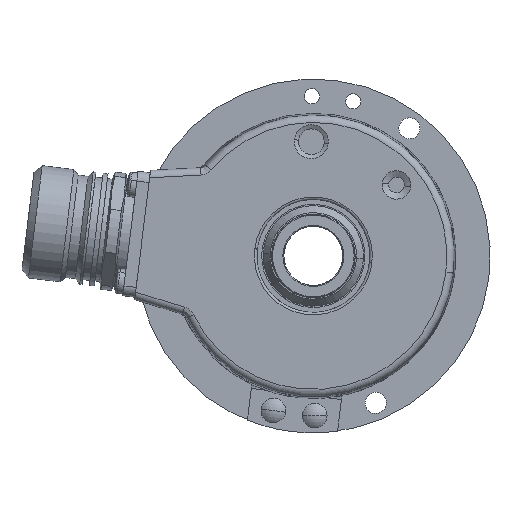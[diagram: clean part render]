
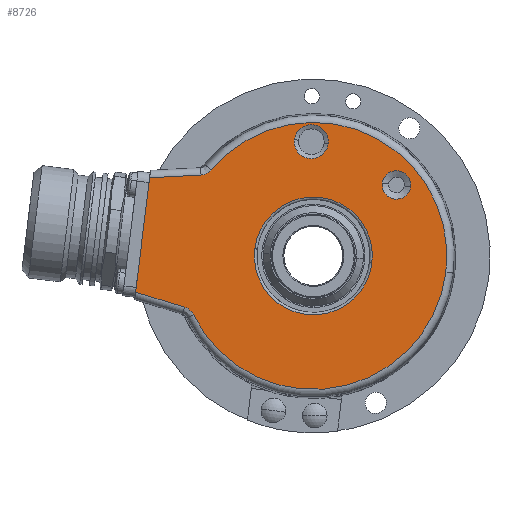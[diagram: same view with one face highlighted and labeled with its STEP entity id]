
A CAD part, left-side view. The second image highlights one B-rep face of the part: STEP entity #8726.
In plain terms, the highlighted planar face has unit normal (-1, 0, 0).
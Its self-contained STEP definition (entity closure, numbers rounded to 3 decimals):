
#345 = CARTESIAN_POINT ( 'NONE',  ( -19., -3.034, 22.824 ) ) ;
#427 = DIRECTION ( 'NONE',  ( 0., -0.993, -0.122 ) ) ;
#428 = DIRECTION ( 'NONE',  ( 1., 0., 0. ) ) ;
#429 = CARTESIAN_POINT ( 'NONE',  ( -19., -16.919, 14.45 ) ) ;
#430 = AXIS2_PLACEMENT_3D ( 'NONE', #429, #428, #427 ) ;
#431 = CIRCLE ( 'NONE', #430, 2.899 ) ;
#564 = CARTESIAN_POINT ( 'NONE',  ( -19., 22.914, 16.45 ) ) ;
#596 = CARTESIAN_POINT ( 'NONE',  ( -19., 20.777, 17.512 ) ) ;
#597 = CARTESIAN_POINT ( 'NONE',  ( -19., -26.97, -3.312 ) ) ;
#598 = DIRECTION ( 'NONE',  ( 0., -0.993, -0.122 ) ) ;
#599 = DIRECTION ( 'NONE',  ( -1., 0., 0. ) ) ;
#600 = CARTESIAN_POINT ( 'NONE',  ( -19., 0., 0. ) ) ;
#601 = AXIS2_PLACEMENT_3D ( 'NONE', #600, #599, #598 ) ;
#602 = CIRCLE ( 'NONE', #601, 27.173 ) ;
#641 = DIRECTION ( 'NONE',  ( 0., -0.993, -0.122 ) ) ;
#642 = DIRECTION ( 'NONE',  ( 1., 0., 0. ) ) ;
#643 = AXIS2_PLACEMENT_3D ( 'NONE', #649, #642, #641 ) ;
#644 = CIRCLE ( 'NONE', #643, 3.466 ) ;
#649 = CARTESIAN_POINT ( 'NONE',  ( -19., 0.406, 23.246 ) ) ;
#745 = CARTESIAN_POINT ( 'NONE',  ( -19., 25.3, -10.87 ) ) ;
#828 = CARTESIAN_POINT ( 'NONE',  ( -19., 11.911, 1.462 ) ) ;
#859 = CARTESIAN_POINT ( 'NONE',  ( -19., -11.911, -1.462 ) ) ;
#860 = DIRECTION ( 'NONE',  ( 0., -0.993, -0.122 ) ) ;
#861 = DIRECTION ( 'NONE',  ( 1., 0., 0. ) ) ;
#862 = AXIS2_PLACEMENT_3D ( 'NONE', #868, #861, #860 ) ;
#863 = CIRCLE ( 'NONE', #862, 12. ) ;
#868 = CARTESIAN_POINT ( 'NONE',  ( -19., 0., 0. ) ) ;
#962 = CARTESIAN_POINT ( 'NONE',  ( -19., 25.471, -10.753 ) ) ;
#968 = CARTESIAN_POINT ( 'NONE',  ( -19., 25.828, -10.557 ) ) ;
#1133 = CARTESIAN_POINT ( 'NONE',  ( -19., 33.31, 15.905 ) ) ;
#1144 = DIRECTION ( 'NONE',  ( 0., 0.999, -0.052 ) ) ;
#1145 = VECTOR ( 'NONE', #1144, 1000. ) ;
#1146 = CARTESIAN_POINT ( 'NONE',  ( -19., 33.046, 15.919 ) ) ;
#1147 = LINE ( 'NONE', #1146, #1145 ) ;
#1165 = CARTESIAN_POINT ( 'NONE',  ( -19., 24.396, -11.966 ) ) ;
#1190 = CARTESIAN_POINT ( 'NONE',  ( -19., 24.989, -11.135 ) ) ;
#1191 = CARTESIAN_POINT ( 'NONE',  ( -19., 24.848, -11.282 ) ) ;
#1192 = CARTESIAN_POINT ( 'NONE',  ( -19., 24.597, -11.605 ) ) ;
#1193 = CARTESIAN_POINT ( 'NONE',  ( -19., 24.487, -11.781 ) ) ;
#1194 = CARTESIAN_POINT ( 'NONE',  ( -19., 24.396, -11.966 ) ) ;
#1195 = B_SPLINE_CURVE_WITH_KNOTS ( 'NONE', 3,
 ( #1194, #1193, #1192, #1191, #1190, #745, #962, #968, #7178, #7171 ),
 .UNSPECIFIED., .F., .F.,
 ( 4, 2, 2, 2, 4 ),
 ( 0., 0.001, 0.001, 0.002, 0.002 ),
 .UNSPECIFIED. ) ;
#1257 = DIRECTION ( 'NONE',  ( 0., -0.993, -0.122 ) ) ;
#1258 = DIRECTION ( 'NONE',  ( -1., 0., 0. ) ) ;
#1259 = CARTESIAN_POINT ( 'NONE',  ( -19., 0., 0. ) ) ;
#1260 = AXIS2_PLACEMENT_3D ( 'NONE', #1259, #1258, #1257 ) ;
#1261 = CIRCLE ( 'NONE', #1260, 27.173 ) ;
#6600 = CARTESIAN_POINT ( 'NONE',  ( -19., -14.042, 14.804 ) ) ;
#6601 = DIRECTION ( 'NONE',  ( 0., -0.993, -0.122 ) ) ;
#6602 = DIRECTION ( 'NONE',  ( 1., 0., 0. ) ) ;
#6603 = CARTESIAN_POINT ( 'NONE',  ( -19., -16.919, 14.45 ) ) ;
#6604 = AXIS2_PLACEMENT_3D ( 'NONE', #6603, #6602, #6601 ) ;
#6605 = CIRCLE ( 'NONE', #6604, 2.899 ) ;
#6606 = CARTESIAN_POINT ( 'NONE',  ( -19., -19.796, 14.097 ) ) ;
#6902 = LINE ( 'NONE', #6961, #6960 ) ;
#6959 = DIRECTION ( 'NONE',  ( 0., -0.122, 0.993 ) ) ;
#6960 = VECTOR ( 'NONE', #6959, 1000. ) ;
#6961 = CARTESIAN_POINT ( 'NONE',  ( -19., 36.354, -8.886 ) ) ;
#7095 = FACE_OUTER_BOUND ( 'NONE', #8852, .T. ) ;
#7096 = FACE_BOUND ( 'NONE', #8861, .T. ) ;
#7097 = FACE_BOUND ( 'NONE', #8733, .T. ) ;
#7103 = FACE_BOUND ( 'NONE', #8789, .T. ) ;
#7138 = DIRECTION ( 'NONE',  ( 0., -0.993, -0.122 ) ) ;
#7139 = DIRECTION ( 'NONE',  ( 1., 0., 0. ) ) ;
#7140 = CARTESIAN_POINT ( 'NONE',  ( -19., 0., 0. ) ) ;
#7141 = AXIS2_PLACEMENT_3D ( 'NONE', #7140, #7139, #7138 ) ;
#7142 = PLANE ( 'NONE',  #7141 ) ;
#7171 = CARTESIAN_POINT ( 'NONE',  ( -19., 26.213, -10.418 ) ) ;
#7172 = CARTESIAN_POINT ( 'NONE',  ( -19., 3.846, 23.669 ) ) ;
#7173 = DIRECTION ( 'NONE',  ( 0., -0.993, -0.122 ) ) ;
#7174 = DIRECTION ( 'NONE',  ( 1., 0., 0. ) ) ;
#7175 = CARTESIAN_POINT ( 'NONE',  ( -19., 0.406, 23.246 ) ) ;
#7176 = AXIS2_PLACEMENT_3D ( 'NONE', #7175, #7174, #7173 ) ;
#7177 = CIRCLE ( 'NONE', #7176, 3.466 ) ;
#7178 = CARTESIAN_POINT ( 'NONE',  ( -19., 26.016, -10.478 ) ) ;
#8570 = VERTEX_POINT ( 'NONE', #6606 ) ;
#8573 = EDGE_CURVE ( 'NONE', #8575, #8570, #6605, .T. ) ;
#8575 = VERTEX_POINT ( 'NONE', #6600 ) ;
#8670 = ORIENTED_EDGE ( 'NONE', *, *, #8672, .F. ) ;
#8672 = EDGE_CURVE ( 'NONE', #9536, #9024, #6902, .T. ) ;
#8675 = ORIENTED_EDGE ( 'NONE', *, *, #9546, .T. ) ;
#8676 = ORIENTED_EDGE ( 'NONE', *, *, #9044, .F. ) ;
#8678 = ORIENTED_EDGE ( 'NONE', *, *, #9055, .T. ) ;
#8680 = ORIENTED_EDGE ( 'NONE', *, *, #8840, .T. ) ;
#8726 = ADVANCED_FACE ( 'NONE', ( #7103, #7097, #7096, #7095 ), #7142, .F. ) ;
#8728 = ORIENTED_EDGE ( 'NONE', *, *, #8573, .T. ) ;
#8730 = ORIENTED_EDGE ( 'NONE', *, *, #8786, .T. ) ;
#8733 = EDGE_LOOP ( 'NONE', ( #8856, #8858 ) ) ;
#8750 = EDGE_CURVE ( 'NONE', #8751, #8773, #7177, .T. ) ;
#8751 = VERTEX_POINT ( 'NONE', #7172 ) ;
#8773 = VERTEX_POINT ( 'NONE', #345 ) ;
#8786 = EDGE_CURVE ( 'NONE', #8570, #8575, #431, .T. ) ;
#8789 = EDGE_LOOP ( 'NONE', ( #8728, #8730 ) ) ;
#8830 = VERTEX_POINT ( 'NONE', #564 ) ;
#8840 = EDGE_CURVE ( 'NONE', #8842, #8844, #602, .T. ) ;
#8842 = VERTEX_POINT ( 'NONE', #597 ) ;
#8844 = VERTEX_POINT ( 'NONE', #596 ) ;
#8848 = ORIENTED_EDGE ( 'NONE', *, *, #8921, .T. ) ;
#8850 = ORIENTED_EDGE ( 'NONE', *, *, #9812, .T. ) ;
#8852 = EDGE_LOOP ( 'NONE', ( #8853, #8855, #8670, #8675, #8676, #8678, #8680 ) ) ;
#8853 = ORIENTED_EDGE ( 'NONE', *, *, #9629, .F. ) ;
#8855 = ORIENTED_EDGE ( 'NONE', *, *, #9016, .T. ) ;
#8856 = ORIENTED_EDGE ( 'NONE', *, *, #8750, .T. ) ;
#8858 = ORIENTED_EDGE ( 'NONE', *, *, #8870, .T. ) ;
#8861 = EDGE_LOOP ( 'NONE', ( #8848, #8850 ) ) ;
#8870 = EDGE_CURVE ( 'NONE', #8773, #8751, #644, .T. ) ;
#8918 = VERTEX_POINT ( 'NONE', #828 ) ;
#8921 = EDGE_CURVE ( 'NONE', #8922, #8918, #863, .T. ) ;
#8922 = VERTEX_POINT ( 'NONE', #859 ) ;
#9016 = EDGE_CURVE ( 'NONE', #8830, #9024, #1147, .T. ) ;
#9024 = VERTEX_POINT ( 'NONE', #1133 ) ;
#9040 = VERTEX_POINT ( 'NONE', #1165 ) ;
#9044 = EDGE_CURVE ( 'NONE', #9040, #9543, #1195, .T. ) ;
#9055 = EDGE_CURVE ( 'NONE', #9040, #8842, #1261, .T. ) ;
#9536 = VERTEX_POINT ( 'NONE', #15274 ) ;
#9543 = VERTEX_POINT ( 'NONE', #15338 ) ;
#9546 = EDGE_CURVE ( 'NONE', #9536, #9543, #15333, .T. ) ;
#9629 = EDGE_CURVE ( 'NONE', #8830, #8844, #15600, .T. ) ;
#9812 = EDGE_CURVE ( 'NONE', #8918, #8922, #16175, .T. ) ;
#15274 = CARTESIAN_POINT ( 'NONE',  ( -19., 36.168, -7.374 ) ) ;
#15330 = DIRECTION ( 'NONE',  ( 0., -0.956, -0.292 ) ) ;
#15331 = VECTOR ( 'NONE', #15330, 1000. ) ;
#15332 = CARTESIAN_POINT ( 'NONE',  ( -19., 25.556, -10.618 ) ) ;
#15333 = LINE ( 'NONE', #15332, #15331 ) ;
#15338 = CARTESIAN_POINT ( 'NONE',  ( -19., 26.213, -10.418 ) ) ;
#15583 = CARTESIAN_POINT ( 'NONE',  ( -19., 20.777, 17.512 ) ) ;
#15584 = CARTESIAN_POINT ( 'NONE',  ( -19., 20.91, 17.355 ) ) ;
#15585 = CARTESIAN_POINT ( 'NONE',  ( -19., 21.056, 17.213 ) ) ;
#15586 = CARTESIAN_POINT ( 'NONE',  ( -19., 21.376, 16.962 ) ) ;
#15587 = CARTESIAN_POINT ( 'NONE',  ( -19., 21.552, 16.851 ) ) ;
#15588 = CARTESIAN_POINT ( 'NONE',  ( -19., 21.917, 16.669 ) ) ;
#15589 = CARTESIAN_POINT ( 'NONE',  ( -19., 22.108, 16.597 ) ) ;
#15590 = CARTESIAN_POINT ( 'NONE',  ( -19., 22.503, 16.493 ) ) ;
#15591 = CARTESIAN_POINT ( 'NONE',  ( -19., 22.708, 16.461 ) ) ;
#15592 = CARTESIAN_POINT ( 'NONE',  ( -19., 22.914, 16.45 ) ) ;
#15600 = B_SPLINE_CURVE_WITH_KNOTS ( 'NONE', 3,
 ( #15592, #15591, #15590, #15589, #15588, #15587, #15586, #15585, #15584, #15583 ),
 .UNSPECIFIED., .F., .F.,
 ( 4, 2, 2, 2, 4 ),
 ( 0., 0.001, 0.001, 0.002, 0.002 ),
 .UNSPECIFIED. ) ;
#16171 = DIRECTION ( 'NONE',  ( 0., -0.993, -0.122 ) ) ;
#16172 = DIRECTION ( 'NONE',  ( 1., 0., 0. ) ) ;
#16173 = CARTESIAN_POINT ( 'NONE',  ( -19., 0., 0. ) ) ;
#16174 = AXIS2_PLACEMENT_3D ( 'NONE', #16173, #16172, #16171 ) ;
#16175 = CIRCLE ( 'NONE', #16174, 12. ) ;
